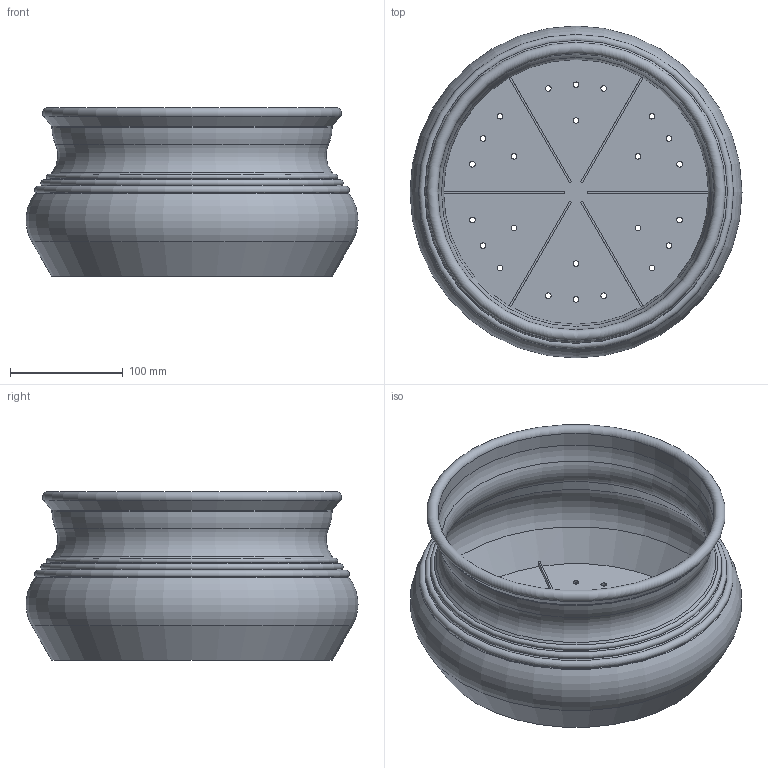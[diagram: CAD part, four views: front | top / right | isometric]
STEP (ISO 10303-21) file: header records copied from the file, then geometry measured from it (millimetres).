
FILE_DESCRIPTION(/* description */ (''),/* implementation_level */ '2;1');
FILE_NAME(/* name */ 'LR2406-S17-H150-D300_step.step',/* time_stamp */ '2024-02-01T11:03:21+01:00',/* author */ (''),/* organization */ (''),/* preprocessor_version */ 'ST-DEVELOPER v20',/* originating_system */ 'Autodesk Translation Framework v12.20.1.177',/* authorisation */ '');
FILE_SCHEMA (('AUTOMOTIVE_DESIGN { 1 0 10303 214 3 1 1 }'));
Length unit declared in the file: millimetre
Products named in the file (1): LR2406-S17-H150-D300
Bounding box: 294.71 x 294.71 x 150 mm (x, y, z)
Volume: 425425.9 mm3; surface area: 386285.9 mm2
Topology: 1 solids, 1 shells, 70 faces, 185 edges, 117 vertices
Faces by surface type: cylinder 32, plane 20, torus 10, cone 8
Full cylindrical faces by diameter (mm): 5 x24, 245.36 x1, 248.72 x1
Entity records: 2336 total; most frequent: DIRECTION 430, CARTESIAN_POINT 373, ORIENTED_EDGE 370, EDGE_CURVE 185, AXIS2_PLACEMENT_3D 174, EDGE_LOOP 118, VERTEX_POINT 117, CIRCLE 103
